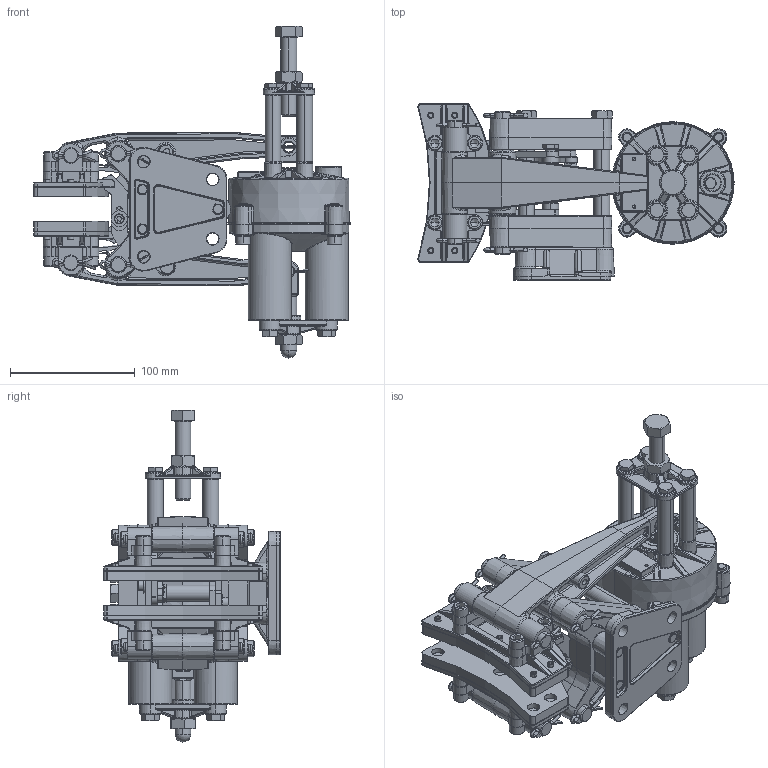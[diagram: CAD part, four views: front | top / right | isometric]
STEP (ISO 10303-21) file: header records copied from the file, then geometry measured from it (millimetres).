
FILE_DESCRIPTION (( 'STEP AP214' ), '1' );
FILE_NAME ('5019-SA-RH-R.STEP', '2020-04-01T20:25:01', ( '' ), ( '' ), 'SwSTEP 2.0', 'SolidWorks 2019', '' );
FILE_SCHEMA (( 'AUTOMOTIVE_DESIGN' ));
Length unit declared in the file: inch
Products named in the file (2): 5019-SA-RH-R
Bounding box: 253.14 x 141.52 x 265.81 mm (x, y, z)
Surface area: 335254.9 mm2 (no closed solid volume)
Topology: 0 solids, 134 shells, 3053 faces, 8860 edges, 5656 vertices
Faces by surface type: plane 816, cylinder 813, bspline 523, cone 504, torus 369, sphere 28
Entity records: 160966 total; most frequent: CARTESIAN_POINT 47779, ORIENTED_EDGE 14914, DIRECTION 14840, EDGE_CURVE 8745, AXIS2_PLACEMENT_3D 5914, VERTEX_POINT 5656, CIRCLE 3382, EDGE_LOOP 3311
